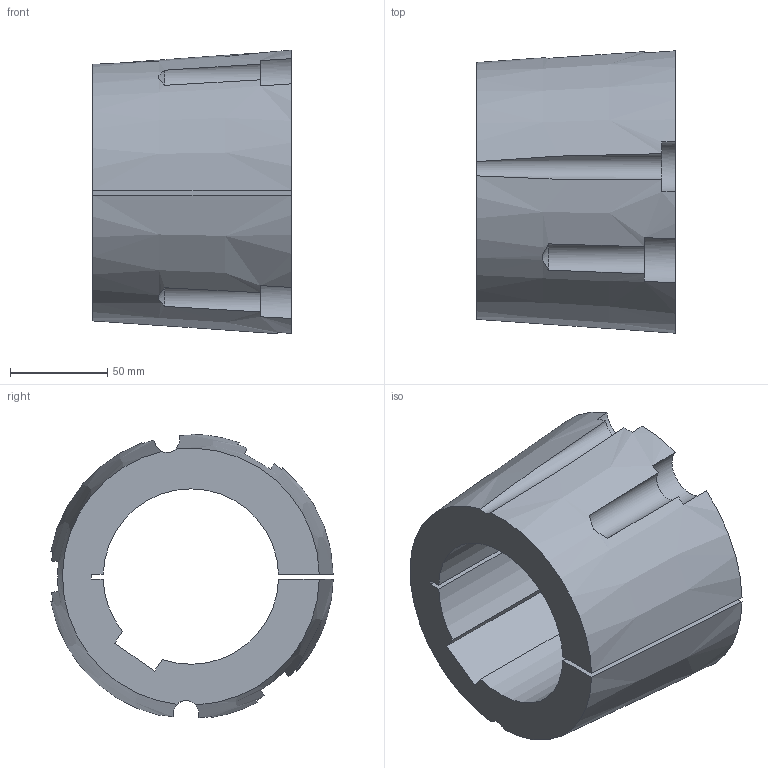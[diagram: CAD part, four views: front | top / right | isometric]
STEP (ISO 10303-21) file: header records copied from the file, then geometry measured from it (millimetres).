
FILE_DESCRIPTION( ( 'STEP AP203' ), '1' );
FILE_NAME( 'D:/export/antriebselemente/spannbuchsen_und_spannsaetze/taper-spannbuchsen_1008_bis_5050/taper-spannbuchsen_62251490Isometric_246.stp', '2018-12-11T11:11:34', ( '' ), ( '' ), ' ', 'PARTsolutions', ' ' );
FILE_SCHEMA( ( 'CONFIG_CONTROL_DESIGN' ) );
Length unit declared in the file: millimetre
Products named in the file (1): _taper-spannbuchsen_62251490
Bounding box: 102 x 144.84 x 145.4 mm (x, y, z)
Volume: 831384 mm3; surface area: 100313.3 mm2
Topology: 1 solids, 1 shells, 34 faces, 96 edges, 64 vertices
Faces by surface type: plane 15, cylinder 13, cone 6
Entity records: 1310 total; most frequent: CARTESIAN_POINT 386, ORIENTED_EDGE 192, DIRECTION 186, EDGE_CURVE 96, AXIS2_PLACEMENT_3D 80, VERTEX_POINT 64, CIRCLE 45, ADVANCED_FACE 34
